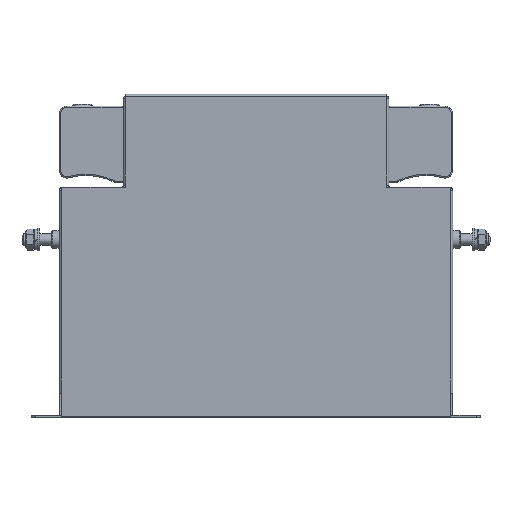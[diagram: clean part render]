
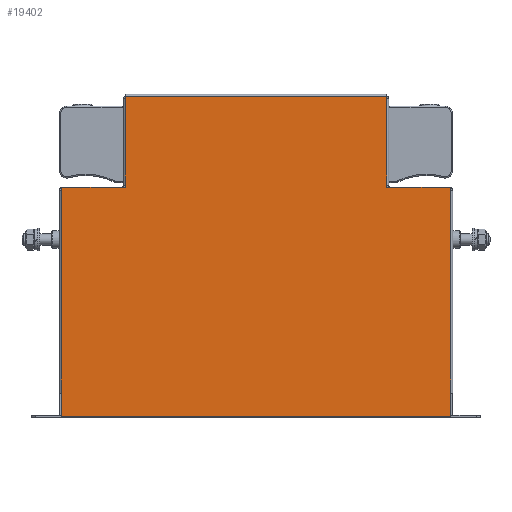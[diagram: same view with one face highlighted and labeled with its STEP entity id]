
A CAD part, top view. The second image highlights one B-rep face of the part: STEP entity #19402.
In plain terms, the highlighted planar face has unit normal (0, 0, 1).
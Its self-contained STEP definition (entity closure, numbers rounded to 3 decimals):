
#1840=FACE_OUTER_BOUND('',#3091,.T.);
#3091=EDGE_LOOP('',(#14167,#14168,#14169,#14170,#14171,#14172,#14173,#14174,
#14175,#14176));
#4729=LINE('',#30364,#6625);
#4730=LINE('',#30366,#6626);
#4731=LINE('',#30368,#6627);
#4732=LINE('',#30370,#6628);
#4733=LINE('',#30372,#6629);
#4734=LINE('',#30374,#6630);
#4735=LINE('',#30376,#6631);
#4736=LINE('',#30378,#6632);
#4737=LINE('',#30380,#6633);
#4738=LINE('',#30381,#6634);
#6625=VECTOR('',#23998,10.);
#6626=VECTOR('',#23999,10.);
#6627=VECTOR('',#24000,10.);
#6628=VECTOR('',#24001,10.);
#6629=VECTOR('',#24002,10.);
#6630=VECTOR('',#24003,10.);
#6631=VECTOR('',#24004,10.);
#6632=VECTOR('',#24005,10.);
#6633=VECTOR('',#24006,10.);
#6634=VECTOR('',#24007,10.);
#8413=VERTEX_POINT('',#30362);
#8414=VERTEX_POINT('',#30363);
#8415=VERTEX_POINT('',#30365);
#8416=VERTEX_POINT('',#30367);
#8417=VERTEX_POINT('',#30369);
#8418=VERTEX_POINT('',#30371);
#8419=VERTEX_POINT('',#30373);
#8420=VERTEX_POINT('',#30375);
#8421=VERTEX_POINT('',#30377);
#8422=VERTEX_POINT('',#30379);
#10478=EDGE_CURVE('',#8413,#8414,#4729,.T.);
#10479=EDGE_CURVE('',#8413,#8415,#4730,.T.);
#10480=EDGE_CURVE('',#8415,#8416,#4731,.T.);
#10481=EDGE_CURVE('',#8416,#8417,#4732,.T.);
#10482=EDGE_CURVE('',#8417,#8418,#4733,.T.);
#10483=EDGE_CURVE('',#8418,#8419,#4734,.T.);
#10484=EDGE_CURVE('',#8420,#8419,#4735,.T.);
#10485=EDGE_CURVE('',#8421,#8420,#4736,.T.);
#10486=EDGE_CURVE('',#8422,#8421,#4737,.T.);
#10487=EDGE_CURVE('',#8414,#8422,#4738,.T.);
#14167=ORIENTED_EDGE('',*,*,#10478,.F.);
#14168=ORIENTED_EDGE('',*,*,#10479,.T.);
#14169=ORIENTED_EDGE('',*,*,#10480,.T.);
#14170=ORIENTED_EDGE('',*,*,#10481,.T.);
#14171=ORIENTED_EDGE('',*,*,#10482,.T.);
#14172=ORIENTED_EDGE('',*,*,#10483,.T.);
#14173=ORIENTED_EDGE('',*,*,#10484,.F.);
#14174=ORIENTED_EDGE('',*,*,#10485,.F.);
#14175=ORIENTED_EDGE('',*,*,#10486,.F.);
#14176=ORIENTED_EDGE('',*,*,#10487,.F.);
#17563=PLANE('',#20730);
#19402=ADVANCED_FACE('',(#1840),#17563,.T.);
#20730=AXIS2_PLACEMENT_3D('',#30361,#23996,#23997);
#23996=DIRECTION('center_axis',(0.,0.,
1.));
#23997=DIRECTION('ref_axis',(1.,0.,0.));
#23998=DIRECTION('',(0.707,-0.707,0.));
#23999=DIRECTION('',(-1.,0.,0.));
#24000=DIRECTION('',(0.,1.,0.));
#24001=DIRECTION('',(-1.,0.,0.));
#24002=DIRECTION('',(0.,-1.,0.));
#24003=DIRECTION('',(-1.,0.,0.));
#24004=DIRECTION('',(0.707,0.707,0.));
#24005=DIRECTION('',(0.,1.,0.));
#24006=DIRECTION('',(-1.,0.,0.));
#24007=DIRECTION('',(0.,-1.,0.));
#30361=CARTESIAN_POINT('Origin',(0.,115.5,47.25));
#30362=CARTESIAN_POINT('',(137.5,164.,47.25));
#30363=CARTESIAN_POINT('',(138.5,163.,47.25));
#30364=CARTESIAN_POINT('',(115.5,186.,47.25));
#30365=CARTESIAN_POINT('',(93.,164.,47.25));
#30366=CARTESIAN_POINT('',(69.25,164.,47.25));
#30367=CARTESIAN_POINT('',(93.,228.2,47.25));
#30368=CARTESIAN_POINT('',(93.,139.75,47.25));
#30369=CARTESIAN_POINT('',(-93.,228.2,47.25));
#30370=CARTESIAN_POINT('',(46.5,228.2,47.25));
#30371=CARTESIAN_POINT('',(-93.,164.,47.25));
#30372=CARTESIAN_POINT('',(-93.,172.75,47.25));
#30373=CARTESIAN_POINT('',(-137.5,164.,47.25));
#30374=CARTESIAN_POINT('',(-46.5,164.,47.25));
#30375=CARTESIAN_POINT('',(-138.5,163.,47.25));
#30376=CARTESIAN_POINT('',(-115.5,186.,47.25));
#30377=CARTESIAN_POINT('',(-138.5,1.,47.25));
#30378=CARTESIAN_POINT('',(-138.5,230.,47.25));
#30379=CARTESIAN_POINT('',(138.5,1.,47.25));
#30380=CARTESIAN_POINT('',(-138.5,1.,47.25));
#30381=CARTESIAN_POINT('',(138.5,1.,47.25));
